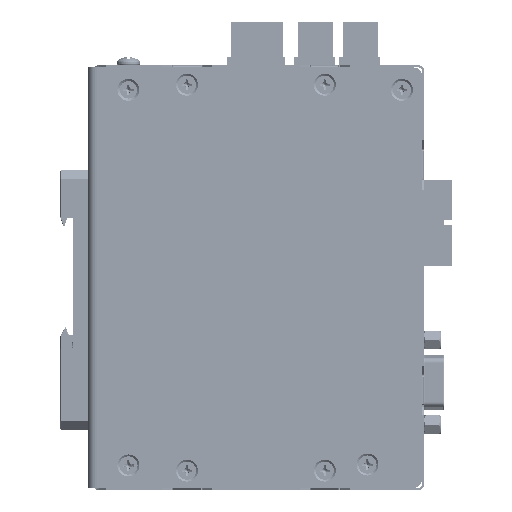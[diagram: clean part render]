
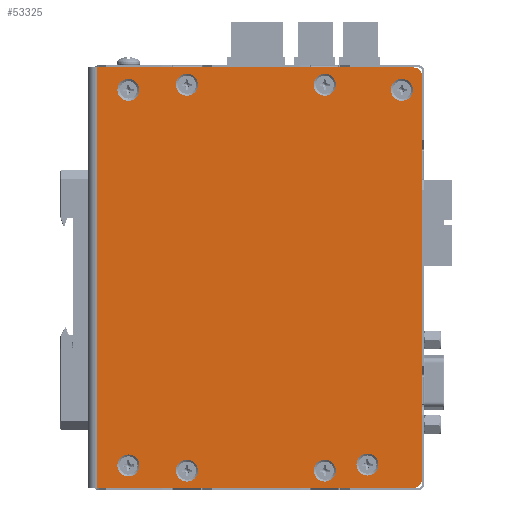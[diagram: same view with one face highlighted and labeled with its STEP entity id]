
A CAD part, left-side view. The second image highlights one B-rep face of the part: STEP entity #53325.
In plain terms, the highlighted planar face has unit normal (-1, 0, 0).
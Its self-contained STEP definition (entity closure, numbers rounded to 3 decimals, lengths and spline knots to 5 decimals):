
#3477=CIRCLE('',#62617,0.00324);
#3478=CIRCLE('',#62618,0.00324);
#3479=CIRCLE('',#62619,0.00324);
#3480=CIRCLE('',#62620,0.00324);
#3481=CIRCLE('',#62621,0.00324);
#3482=CIRCLE('',#62622,0.00324);
#3483=CIRCLE('',#62623,0.00324);
#3484=CIRCLE('',#62624,0.00324);
#3485=CIRCLE('',#62625,0.00254);
#3486=CIRCLE('',#62626,0.00254);
#8644=LINE('',#103250,#13854);
#8648=LINE('',#103259,#13858);
#8654=LINE('',#103273,#13864);
#8656=LINE('',#103295,#13866);
#13854=VECTOR('',#75698,1.);
#13858=VECTOR('',#75704,1.);
#13864=VECTOR('',#75712,1.);
#13866=VECTOR('',#75736,1.);
#27634=ORIENTED_EDGE('',*,*,#35424,.F.);
#27635=ORIENTED_EDGE('',*,*,#35425,.F.);
#27636=ORIENTED_EDGE('',*,*,#35426,.F.);
#27637=ORIENTED_EDGE('',*,*,#35427,.F.);
#27638=ORIENTED_EDGE('',*,*,#35428,.F.);
#27639=ORIENTED_EDGE('',*,*,#35429,.F.);
#27640=ORIENTED_EDGE('',*,*,#35430,.F.);
#27641=ORIENTED_EDGE('',*,*,#35431,.F.);
#27642=ORIENTED_EDGE('',*,*,#35422,.F.);
#27643=ORIENTED_EDGE('',*,*,#35432,.T.);
#27644=ORIENTED_EDGE('',*,*,#35412,.T.);
#27645=ORIENTED_EDGE('',*,*,#35433,.T.);
#27646=ORIENTED_EDGE('',*,*,#35416,.T.);
#27647=ORIENTED_EDGE('',*,*,#35434,.F.);
#35412=EDGE_CURVE('',#40572,#40573,#8644,.T.);
#35416=EDGE_CURVE('',#40576,#40577,#8648,.T.);
#35422=EDGE_CURVE('',#40582,#40583,#8654,.T.);
#35424=EDGE_CURVE('',#40584,#40584,#3477,.T.);
#35425=EDGE_CURVE('',#40585,#40585,#3478,.T.);
#35426=EDGE_CURVE('',#40586,#40586,#3479,.T.);
#35427=EDGE_CURVE('',#40587,#40587,#3480,.T.);
#35428=EDGE_CURVE('',#40588,#40588,#3481,.T.);
#35429=EDGE_CURVE('',#40589,#40589,#3482,.T.);
#35430=EDGE_CURVE('',#40590,#40590,#3483,.T.);
#35431=EDGE_CURVE('',#40591,#40591,#3484,.T.);
#35432=EDGE_CURVE('',#40582,#40572,#3485,.T.);
#35433=EDGE_CURVE('',#40573,#40576,#3486,.T.);
#35434=EDGE_CURVE('',#40583,#40577,#8656,.F.);
#40572=VERTEX_POINT('',#103251);
#40573=VERTEX_POINT('',#103252);
#40576=VERTEX_POINT('',#103260);
#40577=VERTEX_POINT('',#103261);
#40582=VERTEX_POINT('',#103272);
#40583=VERTEX_POINT('',#103274);
#40584=VERTEX_POINT('',#103278);
#40585=VERTEX_POINT('',#103280);
#40586=VERTEX_POINT('',#103282);
#40587=VERTEX_POINT('',#103284);
#40588=VERTEX_POINT('',#103286);
#40589=VERTEX_POINT('',#103288);
#40590=VERTEX_POINT('',#103290);
#40591=VERTEX_POINT('',#103292);
#44785=EDGE_LOOP('',(#27634));
#44786=EDGE_LOOP('',(#27635));
#44787=EDGE_LOOP('',(#27636));
#44788=EDGE_LOOP('',(#27637));
#44789=EDGE_LOOP('',(#27638));
#44790=EDGE_LOOP('',(#27639));
#44791=EDGE_LOOP('',(#27640));
#44792=EDGE_LOOP('',(#27641));
#44793=EDGE_LOOP('',(#27642,#27643,#27644,#27645,#27646,#27647));
#48549=FACE_BOUND('',#44785,.T.);
#48550=FACE_BOUND('',#44786,.T.);
#48551=FACE_BOUND('',#44787,.T.);
#48552=FACE_BOUND('',#44788,.T.);
#48553=FACE_BOUND('',#44789,.T.);
#48554=FACE_BOUND('',#44790,.T.);
#48555=FACE_BOUND('',#44791,.T.);
#48556=FACE_BOUND('',#44792,.T.);
#48557=FACE_BOUND('',#44793,.T.);
#50610=PLANE('',#62616);
#53325=ADVANCED_FACE('',(#48549,#48550,#48551,#48552,#48553,#48554,#48555,
#48556,#48557),#50610,.T.);
#62616=AXIS2_PLACEMENT_3D('',#103276,#75714,#75715);
#62617=AXIS2_PLACEMENT_3D('',#103277,#75716,#75717);
#62618=AXIS2_PLACEMENT_3D('',#103279,#75718,#75719);
#62619=AXIS2_PLACEMENT_3D('',#103281,#75720,#75721);
#62620=AXIS2_PLACEMENT_3D('',#103283,#75722,#75723);
#62621=AXIS2_PLACEMENT_3D('',#103285,#75724,#75725);
#62622=AXIS2_PLACEMENT_3D('',#103287,#75726,#75727);
#62623=AXIS2_PLACEMENT_3D('',#103289,#75728,#75729);
#62624=AXIS2_PLACEMENT_3D('',#103291,#75730,#75731);
#62625=AXIS2_PLACEMENT_3D('',#103293,#75732,#75733);
#62626=AXIS2_PLACEMENT_3D('',#103294,#75734,#75735);
#75698=DIRECTION('',(0.,0.,1.));
#75704=DIRECTION('',(0.,1.,0.));
#75712=DIRECTION('',(0.,1.,0.));
#75714=DIRECTION('',(-1.,0.,0.));
#75715=DIRECTION('',(0.,0.,1.));
#75716=DIRECTION('',(-1.,0.,0.));
#75717=DIRECTION('',(0.,0.,1.));
#75718=DIRECTION('',(-1.,0.,0.));
#75719=DIRECTION('',(0.,0.,1.));
#75720=DIRECTION('',(-1.,0.,0.));
#75721=DIRECTION('',(0.,0.,1.));
#75722=DIRECTION('',(-1.,0.,0.));
#75723=DIRECTION('',(0.,0.,1.));
#75724=DIRECTION('',(-1.,0.,0.));
#75725=DIRECTION('',(0.,0.,1.));
#75726=DIRECTION('',(-1.,0.,0.));
#75727=DIRECTION('',(0.,0.,1.));
#75728=DIRECTION('',(-1.,0.,0.));
#75729=DIRECTION('',(0.,0.,1.));
#75730=DIRECTION('',(-1.,0.,0.));
#75731=DIRECTION('',(0.,0.,1.));
#75732=DIRECTION('',(-1.,0.,0.));
#75733=DIRECTION('',(0.,0.,1.));
#75734=DIRECTION('',(-1.,0.,0.));
#75735=DIRECTION('',(0.,0.,1.));
#75736=DIRECTION('',(0.,0.,-1.));
#103250=CARTESIAN_POINT('',(-0.01524,-0.09703,0.));
#103251=CARTESIAN_POINT('',(-0.01524,-0.09703,-0.05944));
#103252=CARTESIAN_POINT('',(-0.01524,-0.09703,0.05944));
#103259=CARTESIAN_POINT('',(-0.01524,-0.09703,0.06198));
#103260=CARTESIAN_POINT('',(-0.01524,-0.09449,0.06198));
#103261=CARTESIAN_POINT('',(-0.01524,-0.00102,0.06198));
#103272=CARTESIAN_POINT('',(-0.01524,-0.09449,-0.06198));
#103273=CARTESIAN_POINT('',(-0.01524,-0.09703,-0.06198));
#103274=CARTESIAN_POINT('',(-0.01524,-0.00102,-0.06198));
#103276=CARTESIAN_POINT('',(-0.01524,-0.09703,0.));
#103277=CARTESIAN_POINT('',(-0.01524,-0.02769,0.0569));
#103278=CARTESIAN_POINT('',(-0.01524,-0.02769,0.06013));
#103279=CARTESIAN_POINT('',(-0.01524,-0.06833,0.0569));
#103280=CARTESIAN_POINT('',(-0.01524,-0.06833,0.06013));
#103281=CARTESIAN_POINT('',(-0.01524,-0.09106,0.05537));
#103282=CARTESIAN_POINT('',(-0.01524,-0.09106,0.05861));
#103283=CARTESIAN_POINT('',(-0.01524,-0.0809,-0.05512));
#103284=CARTESIAN_POINT('',(-0.01524,-0.0809,-0.05188));
#103285=CARTESIAN_POINT('',(-0.01524,-0.06833,-0.0569));
#103286=CARTESIAN_POINT('',(-0.01524,-0.06833,-0.05366));
#103287=CARTESIAN_POINT('',(-0.01524,-0.02769,-0.0569));
#103288=CARTESIAN_POINT('',(-0.01524,-0.02769,-0.05366));
#103289=CARTESIAN_POINT('',(-0.01524,-0.01041,-0.05537));
#103290=CARTESIAN_POINT('',(-0.01524,-0.01041,-0.05213));
#103291=CARTESIAN_POINT('',(-0.01524,-0.01041,0.05537));
#103292=CARTESIAN_POINT('',(-0.01524,-0.01041,0.05861));
#103293=CARTESIAN_POINT('',(-0.01524,-0.09449,-0.05944));
#103294=CARTESIAN_POINT('',(-0.01524,-0.09449,0.05944));
#103295=CARTESIAN_POINT('',(-0.01524,-0.00102,0.));
